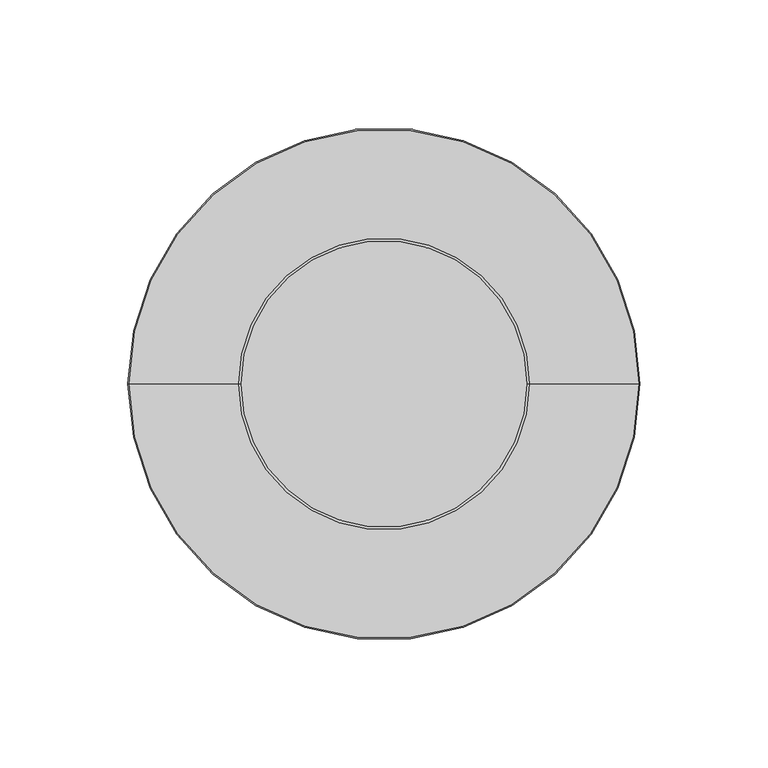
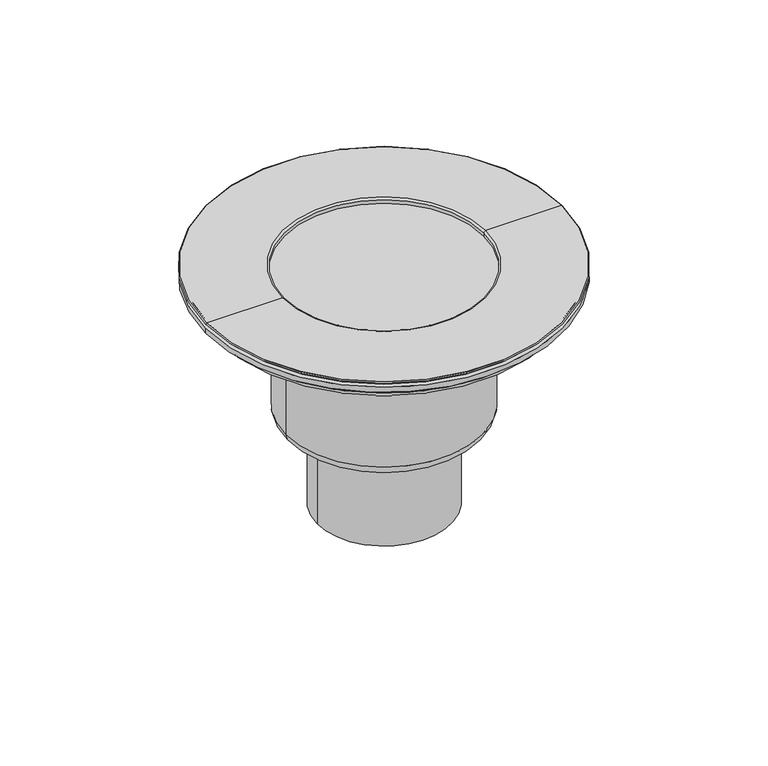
"""IFC4 building model written with IfcOpenShell, lengths in millimetres: flow terminal geometry."""

import ifcopenshell
import ifcopenshell.guid

model = None  # the IFC model being written
_history = None  # IfcOwnerHistory: only IFC2X3 demands one
_inside = {}  # id of a spatial element -> (the spatial element, [elements in it])
_under = {}  # id of a project, library or spatial element -> (it, [spatial elements below it])
_declared = {}  # id of a project -> (the project, [libraries it declares])
_typed = {}  # id of a type object -> (the type object, [elements of that type])
_made_of = {}  # id of a material, layer set ... -> (it, [elements and type objects made of it])


def new_model(schema):
    """Start an empty IFC model of exactly this schema.

    Asked for "IFC4X3", IfcOpenShell would pick the latest addendum, in which some entities
    have other attributes; the version numbers below select the first issue.
    IFC2X3 requires an IfcOwnerHistory on every rooted entity: one is made here for all.
    """
    global model, _history
    if schema == "IFC4X3":
        model = ifcopenshell.file(schema_version=(4, 3, 0, 0))
    else:
        model = ifcopenshell.file(schema=schema)
    _inside.clear()
    _under.clear()
    _declared.clear()
    _typed.clear()
    _made_of.clear()
    _history = None
    if model.schema == "IFC2X3":
        org = make("IfcOrganization", Name="unknown")
        user = make(
            "IfcPersonAndOrganization",
            ThePerson=make("IfcPerson", FamilyName="unknown"),
            TheOrganization=org,
        )
        app = make(
            "IfcApplication",
            ApplicationDeveloper=org,
            Version="unknown",
            ApplicationFullName="unknown",
            ApplicationIdentifier="unknown",
        )
        _history = make(
            "IfcOwnerHistory",
            OwningUser=user,
            OwningApplication=app,
            ChangeAction="ADDED",
            CreationDate=0,
        )
    return model


def make(cls, **values):
    """One entity of the class cls with the attributes given. An attribute that is None is left unset."""
    return model.create_entity(
        cls, **{name: value for name, value in values.items() if value is not None}
    )


def rooted(cls, **values):
    """An entity with a GlobalId (a new one), such as an element, a storey or a relation."""
    return make(cls, GlobalId=ifcopenshell.guid.new(), OwnerHistory=_history, **values)


def si_unit(unit_type, name, prefix=None):
    """IfcSIUnit, for example si_unit("LENGTHUNIT", "METRE", prefix="MILLI")."""
    return make("IfcSIUnit", UnitType=unit_type, Prefix=prefix, Name=name)


def assignment(units):
    """IfcUnitAssignment: the units of a project."""
    return None if units is None else make("IfcUnitAssignment", Units=units)


def point(xyz):
    """IfcCartesianPoint."""
    return None if xyz is None else make("IfcCartesianPoint", Coordinates=xyz)


def direction(xyz):
    """IfcDirection."""
    return None if xyz is None else make("IfcDirection", DirectionRatios=xyz)


def frame(location, z_axis=None, x_axis=None):
    """IfcAxis2Placement3D, a coordinate frame: its origin and axes. An axis left out is left unset."""
    return make(
        "IfcAxis2Placement3D",
        Location=point(location),
        Axis=direction(z_axis),
        RefDirection=direction(x_axis),
    )


def frame_2d(location, x_axis=None):
    """IfcAxis2Placement2D, a coordinate frame in the plane: its origin and x axis."""
    return make(
        "IfcAxis2Placement2D", Location=point(location), RefDirection=direction(x_axis)
    )


def origin():
    """The frame at (0, 0, 0) with its axes left unset."""
    return frame((0.0, 0.0, 0.0))


def origin_2d():
    """The frame at (0, 0) in the plane with its x axis left unset."""
    return frame_2d((0.0, 0.0))


def place(relative_to, where):
    """IfcLocalPlacement: puts the frame where relative to a parent placement (None: the world)."""
    return make(
        "IfcLocalPlacement", PlacementRelTo=relative_to, RelativePlacement=where
    )


def context(
    kind, dimensions, precision=None, world=None, true_north=None, identifier=None
):
    """IfcGeometricRepresentationContext, for example the 3D "Model" context."""
    return make(
        "IfcGeometricRepresentationContext",
        ContextIdentifier=identifier,
        ContextType=kind,
        CoordinateSpaceDimension=dimensions,
        Precision=precision,
        WorldCoordinateSystem=world,
        TrueNorth=true_north,
    )


def project(units=None, contexts=None):
    """IfcProject with its units and contexts."""
    return rooted(
        "IfcProject",
        Name="project",
        RepresentationContexts=contexts,
        UnitsInContext=assignment(units),
    )


def spatial(cls, under=None, at=None, **own):
    """A site, building, storey or space (cls), placed at a placement, below another one or the project."""
    s = rooted(cls, ObjectPlacement=at, **own)
    if under is not None:
        _under.setdefault(under.id(), (under, []))[1].append(s)
    return s


def polyline(points):
    """IfcPolyline through the points."""
    return make("IfcPolyline", Points=[point(p) for p in points])


def circle_curve(where, radius):
    """IfcCircle in the frame where."""
    return make("IfcCircle", Position=where, Radius=radius)


def ellipse_curve(where, semi_axis1, semi_axis2):
    """IfcEllipse in the frame where."""
    return make(
        "IfcEllipse", Position=where, SemiAxis1=semi_axis1, SemiAxis2=semi_axis2
    )


def trimmed(basis, trim1, trim2, sense, master):
    """IfcTrimmedCurve: the piece of a basis curve between two trims."""
    return make(
        "IfcTrimmedCurve",
        BasisCurve=basis,
        Trim1=trim1,
        Trim2=trim2,
        SenseAgreement=sense,
        MasterRepresentation=master,
    )


def segment(curve, same_sense, transition):
    """IfcCompositeCurveSegment."""
    return make(
        "IfcCompositeCurveSegment",
        Transition=transition,
        SameSense=same_sense,
        ParentCurve=curve,
    )


def composite_curve(segments, self_intersect=None):
    """IfcCompositeCurve: segments joined end to end."""
    return make("IfcCompositeCurve", Segments=segments, SelfIntersect=self_intersect)


def outline(outer, holes=None, kind="AREA"):
    """IfcArbitraryClosedProfileDef: a profile drawn as a closed curve; with holes, ...WithVoids."""
    if holes is None:
        return make("IfcArbitraryClosedProfileDef", ProfileType=kind, OuterCurve=outer)
    return make(
        "IfcArbitraryProfileDefWithVoids",
        ProfileType=kind,
        OuterCurve=outer,
        InnerCurves=holes,
    )


def extrude(swept, where, along, depth):
    """IfcExtrudedAreaSolid: the profile swept, set in the frame where, extruded along a direction by depth."""
    return make(
        "IfcExtrudedAreaSolid",
        SweptArea=swept,
        Position=where,
        ExtrudedDirection=direction(along),
        Depth=depth,
    )


def shape(context_of_items, identifier, shape_type, items):
    """IfcShapeRepresentation: the items that make up one representation, for example the "Body"."""
    return make(
        "IfcShapeRepresentation",
        ContextOfItems=context_of_items,
        RepresentationIdentifier=identifier,
        RepresentationType=shape_type,
        Items=items,
    )


def source(mapping_origin, context_of_items, identifier, shape_type, items):
    """IfcRepresentationMap: a shape defined once, which mapped items show again and again."""
    return make(
        "IfcRepresentationMap",
        MappingOrigin=mapping_origin,
        MappedRepresentation=shape(context_of_items, identifier, shape_type, items),
    )


def transform(
    local_origin,
    x_axis=None,
    y_axis=None,
    z_axis=None,
    scale=None,
    scale2=None,
    scale3=None,
    uniform=True,
):
    """IfcCartesianTransformationOperator3D, or its non-uniform kind. x_axis, y_axis, z_axis: its Axis1, 2, 3."""
    if uniform:
        return make(
            "IfcCartesianTransformationOperator3D",
            Axis1=direction(x_axis),
            Axis2=direction(y_axis),
            LocalOrigin=point(local_origin),
            Scale=scale,
            Axis3=direction(z_axis),
        )
    return make(
        "IfcCartesianTransformationOperator3DnonUniform",
        Axis1=direction(x_axis),
        Axis2=direction(y_axis),
        LocalOrigin=point(local_origin),
        Scale=scale,
        Axis3=direction(z_axis),
        Scale2=scale2,
        Scale3=scale3,
    )


def mapped(mapping_source, mapping_target):
    """IfcMappedItem: shows the shape of a source again, moved by a transform."""
    return make(
        "IfcMappedItem", MappingSource=mapping_source, MappingTarget=mapping_target
    )


def made_of(thing, what):
    """Note that an element or type object is made of a material, layer set ...; save() writes the relation."""
    if what is not None:
        _made_of.setdefault(what.id(), (what, []))[1].append(thing)
    return thing


def element(
    cls,
    number,
    at=None,
    inside=None,
    cuts=None,
    type_object=None,
    material=None,
    context=None,
    identifier="Body",
    shape_type=None,
    held_by="IfcProductDefinitionShape",
    body=None,
    shapes=None,
    **own,
):
    """One element of the class cls, such as IfcWall. Its Tag is "e" and its number.

    at: its placement. inside: the storey or other place that contains it. cuts: it is an
    opening in that element (IfcRelVoidsElement). A single representation is given by context,
    identifier, shape_type and body (its items); several are given by shapes. held_by: the class
    of the entity that holds the representations. save() writes the other relations.
    """
    e = rooted(cls, Tag="e%d" % number, ObjectPlacement=at, **own)
    if body is not None:
        shapes = [shape(context, identifier, shape_type, body)]
    if shapes is not None:
        e.Representation = make(held_by, Representations=shapes)
    if inside is not None:
        _inside.setdefault(inside.id(), (inside, []))[1].append(e)
    if cuts is not None:
        rooted(
            "IfcRelVoidsElement", RelatingBuildingElement=cuts, RelatedOpeningElement=e
        )
    if type_object is not None:
        _typed.setdefault(type_object.id(), (type_object, []))[1].append(e)
    return made_of(e, material)


def aggregate(whole, parts):
    """IfcRelAggregates: a whole, such as a stair, and the parts it consists of."""
    return rooted("IfcRelAggregates", RelatingObject=whole, RelatedObjects=parts)


def save(model, path):
    """Write the relations noted so far, then the file.

    IfcRelAggregates (storeys below a building ...), IfcRelContainedInSpatialStructure (elements
    in a storey), IfcRelDefinesByType, IfcRelAssociatesMaterial and IfcRelDeclares: one each for
    every whole, place, type object, material and project.
    """
    for whole, parts in _under.values():
        aggregate(whole, parts)
    for where, things in _inside.values():
        rooted(
            "IfcRelContainedInSpatialStructure",
            RelatedElements=things,
            RelatingStructure=where,
        )
    for kind, things in _typed.values():
        rooted("IfcRelDefinesByType", RelatedObjects=things, RelatingType=kind)
    for what, things in _made_of.values():
        rooted("IfcRelAssociatesMaterial", RelatedObjects=things, RelatingMaterial=what)
    for by, libraries in _declared.values():
        rooted("IfcRelDeclares", RelatingContext=by, RelatedDefinitions=libraries)
    model.write(path)


def plane_surface(at):
    """IfcPlane: the flat surface through the origin of the frame at, square to its z axis."""
    return make("IfcPlane", Position=at)


def cylinder_surface(at, radius):
    """IfcCylindricalSurface: all points at the distance radius from the z axis of the frame at."""
    return make("IfcCylindricalSurface", Position=at, Radius=radius)


def revolved_surface(curve, axis_point, axis_direction):
    """IfcSurfaceOfRevolution: the curve turned about the line through axis_point along axis_direction."""
    return make(
        "IfcSurfaceOfRevolution",
        SweptCurve=make("IfcArbitraryOpenProfileDef", ProfileType="CURVE", Curve=curve),
        AxisPosition=make("IfcAxis1Placement", Location=point(axis_point), Axis=direction(axis_direction)),
    )


def advanced_brep(points, edges, surfaces, faces):
    """IfcAdvancedBrep: a solid bounded by faces that lie on surfaces and meet in shared edges.

    An edge is (start, end): straight between two places in points (the first is 0);
    or (start, end, curve); or (start, end, curve, False) where it runs against its curve.
    A face is (place in surfaces, loops), or (place, loops, False) where it looks against
    its surface's normal. A loop lists edges by number (the first is 1), with a minus sign
    where the edge is run from its end to its start. The first loop is the outer one.
    """
    corners = [point(p) for p in points]
    vertices = [make("IfcVertexPoint", VertexGeometry=c) for c in corners]
    made = []
    for start, end, *more in edges:
        made.append(
            make(
                "IfcEdgeCurve",
                EdgeStart=vertices[start],
                EdgeEnd=vertices[end],
                EdgeGeometry=more[0] if more else make("IfcPolyline", Points=[corners[start], corners[end]]),
                SameSense=more[1] if len(more) > 1 else True,
            )
        )
    hull = []
    for where, loops, *sense in faces:
        bounds = []
        for j, loop in enumerate(loops):
            ring = [make("IfcOrientedEdge", EdgeElement=made[abs(k) - 1], Orientation=k > 0) for k in loop]
            bounds.append(
                make(
                    "IfcFaceOuterBound" if j == 0 else "IfcFaceBound",
                    Bound=make("IfcEdgeLoop", EdgeList=ring),
                    Orientation=True,
                )
            )
        hull.append(make("IfcAdvancedFace", Bounds=bounds, FaceSurface=surfaces[where], SameSense=sense[0] if sense else True))
    return make("IfcAdvancedBrep", Outer=make("IfcClosedShell", CfsFaces=hull))


def flow_terminal_6b02ad8c(model_context):
    return source(origin(), model_context, "Body", "SolidModel", [
        advanced_brep(
        [(-57.0, 0.0, -64.0), (57.0, 0.0, -64.0), (99.5, 0.0, -64.0), (-99.5, 0.0, -64.0), (-56.0, 0.0, -65.0), (56.0, 0.0, -65.0), (-56.0, 0.0, -67.0), (56.0, 0.0, -67.0), (-97.5, 0.0, -67.0), (97.5, 0.0, -67.0), (-99.5, 0.0, -65.0), (99.5, 0.0, -65.0)],
        [
            (0, 1, circle_curve(frame((0.0, 0.0, -64.0), z_axis=(0.0, 0.0, -1.0), x_axis=(1.0, 0.0, 0.0)), 57.0)),
            (1, 2),
            (2, 3, circle_curve(frame((0.0, 0.0, -64.0), z_axis=(0.0, 0.0, 1.0), x_axis=(1.0, 0.0, 0.0)), 99.5)),
            (3, 0),
            (1, 0, circle_curve(frame((0.0, 0.0, -64.0), z_axis=(0.0, 0.0, -1.0), x_axis=(1.0, 0.0, 0.0)), 57.0)),
            (3, 2, circle_curve(frame((0.0, 0.0, -64.0), z_axis=(0.0, 0.0, 1.0), x_axis=(1.0, 0.0, 0.0)), 99.5)),
            (4, 5, circle_curve(frame((0.0, 0.0, -65.0), z_axis=(0.0, 0.0, -1.0), x_axis=(1.0, 0.0, 0.0)), 56.0)),
            (5, 1, circle_curve(frame((57.0, 0.0, -65.0), z_axis=(0.0, 1.0, 0.0), x_axis=(1.0, 0.0, 0.0)), 1.0)),
            (0, 4, circle_curve(frame((-57.0, 0.0, -65.0), z_axis=(0.0, 1.0, 0.0), x_axis=(-1.0, 0.0, 0.0)), 1.0)),
            (5, 4, circle_curve(frame((0.0, 0.0, -65.0), z_axis=(0.0, 0.0, -1.0), x_axis=(1.0, 0.0, 0.0)), 56.0)),
            (6, 7, circle_curve(frame((0.0, 0.0, -67.0), z_axis=(0.0, 0.0, -1.0), x_axis=(1.0, 0.0, 0.0)), 56.0)),
            (7, 5),
            (4, 6),
            (7, 6, circle_curve(frame((0.0, 0.0, -67.0), z_axis=(0.0, 0.0, -1.0), x_axis=(1.0, 0.0, 0.0)), 56.0)),
            (8, 9, circle_curve(frame((0.0, 0.0, -67.0), z_axis=(0.0, 0.0, -1.0), x_axis=(1.0, 0.0, 0.0)), 97.5)),
            (9, 7),
            (6, 8),
            (9, 8, circle_curve(frame((0.0, 0.0, -67.0), z_axis=(0.0, 0.0, -1.0), x_axis=(1.0, 0.0, 0.0)), 97.5)),
            (10, 11, circle_curve(frame((0.0, 0.0, -65.0), z_axis=(0.0, 0.0, -1.0), x_axis=(1.0, 0.0, 0.0)), 99.5)),
            (11, 9, circle_curve(frame((99.5, 0.0, -67.0), z_axis=(0.0, -1.0, 0.0), x_axis=(1.0, 0.0, 0.0)), 2.0)),
            (8, 10, circle_curve(frame((-99.5, 0.0, -67.0), z_axis=(0.0, -1.0, 0.0), x_axis=(-1.0, 0.0, 0.0)), 2.0)),
            (11, 10, circle_curve(frame((0.0, 0.0, -65.0), z_axis=(0.0, 0.0, -1.0), x_axis=(1.0, 0.0, 0.0)), 99.5)),
            (2, 11, circle_curve(frame((99.5, 0.0, -64.5), z_axis=(0.0, 1.0, 0.0), x_axis=(1.0, 0.0, 0.0)), 0.5)),
            (10, 3, circle_curve(frame((-99.5, 0.0, -64.5), z_axis=(0.0, 1.0, 0.0), x_axis=(-1.0, 0.0, 0.0)), 0.5)),
        ],
        [
            plane_surface(frame((0.0, 0.0, -64.0), z_axis=(0.0, 0.0, 1.0), x_axis=(1.0, 0.0, 0.0))),
            revolved_surface(trimmed(ellipse_curve(frame((57.0, 0.0, -65.0), z_axis=(0.0, -1.0, 0.0), x_axis=(1.0, 0.0, 0.0)), 1.0, 1.0), [point((57.0, 0.0, -64.0))], [point((56.0, 0.0, -65.0))], True, "CARTESIAN"), (0.0, 0.0, 2144.3150031), (0.0, 0.0, 1.0)),
            revolved_surface(polyline([(56.0, 0.0, -65.0), (56.0, 0.0, -67.0)]), (0.0, 0.0, 2144.3150031), (0.0, 0.0, 1.0)),
            plane_surface(frame((0.0, 0.0, -67.0), z_axis=(0.0, 0.0, -1.0), x_axis=(1.0, 0.0, 0.0))),
            revolved_surface(trimmed(ellipse_curve(frame((99.5, 0.0, -67.0), z_axis=(0.0, 1.0, 0.0), x_axis=(1.0, 0.0, 0.0)), 2.0, 2.0), [point((97.5, 0.0, -67.0))], [point((99.5, 0.0, -65.0))], True, "CARTESIAN"), (0.0, 0.0, 2144.3150031), (0.0, 0.0, 1.0)),
            revolved_surface(trimmed(ellipse_curve(frame((99.5, 0.0, -64.5), z_axis=(0.0, -1.0, 0.0), x_axis=(1.0, 0.0, 0.0)), 0.5, 0.5), [point((99.5, 0.0, -65.0))], [point((99.5, 0.0, -64.0))], True, "CARTESIAN"), (0.0, 0.0, 2144.3150031), (0.0, 0.0, 1.0)),
        ],
        [
            (0, [[1, 2, 3, 4]]),
            (0, [[5, -4, 6, -2]]),
            (1, [[7, 8, -1, 9]]),
            (1, [[10, -9, -5, -8]]),
            (2, [[11, 12, -7, 13]]),
            (2, [[14, -13, -10, -12]]),
            (3, [[15, 16, -11, 17]]),
            (3, [[18, -17, -14, -16]]),
            (4, [[19, 20, -15, 21]]),
            (4, [[22, -21, -18, -20]]),
            (5, [[-3, 23, -19, 24]]),
            (5, [[-6, -24, -22, -23]]),
        ],
    ),
        extrude(outline(composite_curve([segment(trimmed(circle_curve(origin_2d(), 100.0), [point((-100.0, 0.0))], [point((100.0, 0.0))], False, "CARTESIAN"), True, "CONTINUOUS"), segment(trimmed(circle_curve(origin_2d(), 100.0), [point((100.0, 0.0))], [point((-100.0, 0.0))], False, "CARTESIAN"), True, "CONTINUOUS")], self_intersect=False)), frame((0.0, 0.0, -70.0), z_axis=(0.0, 0.0, 1.0), x_axis=(1.0, 0.0, 0.0)), (0.0, 0.0, 1.0), 3.0),
        advanced_brep(
        [(-55.0, 0.0, -146.0), (55.0, 0.0, -146.0), (49.0, 0.0, -152.0), (-49.0, 0.0, -152.0), (-55.0, 0.0, -94.0), (55.0, 0.0, -94.0), (-58.0, 0.0, -94.0), (58.0, 0.0, -94.0), (-95.0, 0.0, -70.0), (95.0, 0.0, -70.0), (95.0, 0.0, -74.0), (-95.0, 0.0, -74.0), (0.0, 0.0, -70.0), (0.0, 0.0, -152.0), (-58.0, 0.0, -77.0), (58.0, 0.0, -77.0), (-92.0, 0.0, -77.0), (92.0, 0.0, -77.0)],
        [
            (0, 1, circle_curve(frame((0.0, 0.0, -146.0), z_axis=(0.0, 0.0, -1.0), x_axis=(1.0, 0.0, 0.0)), 55.0)),
            (1, 2, circle_curve(frame((49.0, 0.0, -146.0), z_axis=(0.0, 1.0, 0.0), x_axis=(1.0, 0.0, 0.0)), 6.0)),
            (2, 3, circle_curve(frame((0.0, 0.0, -152.0), z_axis=(0.0, 0.0, 1.0), x_axis=(1.0, 0.0, 0.0)), 49.0)),
            (3, 0, circle_curve(frame((-49.0, 0.0, -146.0), z_axis=(0.0, 1.0, 0.0), x_axis=(-1.0, 0.0, 0.0)), 6.0)),
            (1, 0, circle_curve(frame((0.0, 0.0, -146.0), z_axis=(0.0, 0.0, -1.0), x_axis=(1.0, 0.0, 0.0)), 55.0)),
            (3, 2, circle_curve(frame((0.0, 0.0, -152.0), z_axis=(0.0, 0.0, 1.0), x_axis=(1.0, 0.0, 0.0)), 49.0)),
            (4, 5, circle_curve(frame((0.0, 0.0, -94.0), z_axis=(0.0, 0.0, -1.0), x_axis=(1.0, 0.0, 0.0)), 55.0)),
            (5, 1),
            (0, 4),
            (5, 4, circle_curve(frame((0.0, 0.0, -94.0), z_axis=(0.0, 0.0, -1.0), x_axis=(1.0, 0.0, 0.0)), 55.0)),
            (6, 7, circle_curve(frame((0.0, 0.0, -94.0), z_axis=(0.0, 0.0, -1.0), x_axis=(1.0, 0.0, 0.0)), 58.0)),
            (7, 5),
            (4, 6),
            (7, 6, circle_curve(frame((0.0, 0.0, -94.0), z_axis=(0.0, 0.0, -1.0), x_axis=(1.0, 0.0, 0.0)), 58.0)),
            (8, 9, circle_curve(frame((0.0, 0.0, -70.0), z_axis=(0.0, 0.0, -1.0), x_axis=(1.0, 0.0, 0.0)), 95.0)),
            (9, 10),
            (10, 11, circle_curve(frame((0.0, 0.0, -74.0), z_axis=(0.0, 0.0, 1.0), x_axis=(1.0, 0.0, 0.0)), 95.0)),
            (11, 8),
            (9, 8, circle_curve(frame((0.0, 0.0, -70.0), z_axis=(0.0, 0.0, -1.0), x_axis=(1.0, 0.0, 0.0)), 95.0)),
            (11, 10, circle_curve(frame((0.0, 0.0, -74.0), z_axis=(0.0, 0.0, 1.0), x_axis=(1.0, 0.0, 0.0)), 95.0)),
            (12, 9),
            (8, 12),
            (2, 13),
            (13, 3),
            (14, 15, circle_curve(frame((0.0, 0.0, -77.0), z_axis=(0.0, 0.0, -1.0), x_axis=(1.0, 0.0, 0.0)), 58.0)),
            (15, 7),
            (6, 14),
            (15, 14, circle_curve(frame((0.0, 0.0, -77.0), z_axis=(0.0, 0.0, -1.0), x_axis=(1.0, 0.0, 0.0)), 58.0)),
            (16, 17, circle_curve(frame((0.0, 0.0, -77.0), z_axis=(0.0, 0.0, -1.0), x_axis=(1.0, 0.0, 0.0)), 92.0)),
            (17, 15),
            (14, 16),
            (17, 16, circle_curve(frame((0.0, 0.0, -77.0), z_axis=(0.0, 0.0, -1.0), x_axis=(1.0, 0.0, 0.0)), 92.0)),
            (10, 17, circle_curve(frame((92.0, 0.0, -74.0), z_axis=(0.0, 1.0, 0.0), x_axis=(1.0, 0.0, 0.0)), 3.0)),
            (16, 11, circle_curve(frame((-92.0, 0.0, -74.0), z_axis=(0.0, 1.0, 0.0), x_axis=(-1.0, 0.0, 0.0)), 3.0)),
        ],
        [
            revolved_surface(trimmed(ellipse_curve(frame((49.0, 0.0, -146.0), z_axis=(0.0, -1.0, 0.0), x_axis=(1.0, 0.0, 0.0)), 6.0, 6.0), [point((49.0, 0.0, -152.0))], [point((55.0, 0.0, -146.0))], True, "CARTESIAN"), (0.0, 0.0, 2144.3150031), (0.0, 0.0, 1.0)),
            cylinder_surface(frame((0.0, 0.0, 2144.3150031), z_axis=(0.0, 0.0, 1.0), x_axis=(1.0, 0.0, 0.0)), 55.0),
            plane_surface(frame((0.0, 0.0, -94.0), z_axis=(0.0, 0.0, -1.0), x_axis=(1.0, 0.0, 0.0))),
            cylinder_surface(frame((0.0, 0.0, 2144.3150031), z_axis=(0.0, 0.0, 1.0), x_axis=(1.0, 0.0, 0.0)), 95.0),
            plane_surface(frame((0.0, 0.0, -70.0), z_axis=(0.0, 0.0, 1.0), x_axis=(1.0, 0.0, 0.0))),
            plane_surface(frame((0.0, 0.0, -152.0), z_axis=(0.0, 0.0, -1.0), x_axis=(1.0, 0.0, 0.0))),
            cylinder_surface(frame((0.0, 0.0, 2144.3150031), z_axis=(0.0, 0.0, 1.0), x_axis=(1.0, 0.0, 0.0)), 58.0),
            plane_surface(frame((0.0, 0.0, -77.0), z_axis=(0.0, 0.0, -1.0), x_axis=(1.0, 0.0, 0.0))),
            revolved_surface(trimmed(ellipse_curve(frame((92.0, 0.0, -74.0), z_axis=(0.0, -1.0, 0.0), x_axis=(1.0, 0.0, 0.0)), 3.0, 3.0), [point((92.0, 0.0, -77.0))], [point((95.0, 0.0, -74.0))], True, "CARTESIAN"), (0.0, 0.0, 2144.3150031), (0.0, 0.0, 1.0)),
        ],
        [
            (0, [[1, 2, 3, 4]]),
            (0, [[5, -4, 6, -2]]),
            (1, [[7, 8, -1, 9]]),
            (1, [[10, -9, -5, -8]]),
            (2, [[11, 12, -7, 13]]),
            (2, [[14, -13, -10, -12]]),
            (3, [[15, 16, 17, 18]]),
            (3, [[19, -18, 20, -16]]),
            (4, [[21, -15, 22]]),
            (4, [[-22, -19, -21]]),
            (5, [[-3, 23, 24]]),
            (5, [[-6, -24, -23]]),
            (6, [[25, 26, -11, 27]]),
            (6, [[28, -27, -14, -26]]),
            (7, [[29, 30, -25, 31]]),
            (7, [[32, -31, -28, -30]]),
            (8, [[-17, 33, -29, 34]]),
            (8, [[-20, -34, -32, -33]]),
        ],
    ),
        extrude(outline(composite_curve([segment(trimmed(circle_curve(origin_2d(), 25.0), [point((25.0, 0.0))], [point((-25.0, 0.0))], False, "CARTESIAN"), True, "CONTINUOUS"), segment(trimmed(circle_curve(origin_2d(), 25.0), [point((-25.0, 0.0))], [point((25.0, 0.0))], False, "CARTESIAN"), True, "CONTINUOUS")], self_intersect=False), holes=[composite_curve([segment(trimmed(circle_curve(origin_2d(), 22.0), [point((22.0, 0.0))], [point((-22.0, 0.0))], True, "CARTESIAN"), True, "CONTINUOUS"), segment(trimmed(circle_curve(origin_2d(), 22.0), [point((-22.0, 0.0))], [point((22.0, 0.0))], True, "CARTESIAN"), True, "CONTINUOUS")], self_intersect=False)]), frame((0.0, 0.0, -205.0), z_axis=(0.0, 0.0, 1.0), x_axis=(1.0, 0.0, 0.0)), (0.0, 0.0, 1.0), 53.0),
        extrude(outline(composite_curve([segment(trimmed(circle_curve(origin_2d(), 37.5), [point((37.5, 0.0))], [point((-37.5, 0.0))], False, "CARTESIAN"), True, "CONTINUOUS"), segment(trimmed(circle_curve(origin_2d(), 37.5), [point((-37.5, 0.0))], [point((37.5, 0.0))], False, "CARTESIAN"), True, "CONTINUOUS")], self_intersect=False), holes=[composite_curve([segment(trimmed(circle_curve(origin_2d(), 34.5), [point((34.5, 0.0))], [point((-34.5, 0.0))], True, "CARTESIAN"), True, "CONTINUOUS"), segment(trimmed(circle_curve(origin_2d(), 34.5), [point((-34.5, 0.0))], [point((34.5, 0.0))], True, "CARTESIAN"), True, "CONTINUOUS")], self_intersect=False)]), frame((0.0, 0.0, -205.0), z_axis=(0.0, 0.0, 1.0), x_axis=(1.0, 0.0, 0.0)), (0.0, 0.0, 1.0), 53.0),
    ])


if __name__ == "__main__":
    model = new_model("IFC4")
    model_context = context("Model", 3, world=origin())
    ifc_project = project(units=[si_unit("LENGTHUNIT", "METRE", prefix="MILLI")], contexts=[model_context])
    site = spatial("IfcSite", under=ifc_project)
    building = spatial("IfcBuilding", under=site)
    placement = place(None, origin())
    flow_terminal_shape = flow_terminal_6b02ad8c(model_context)
    element("IfcFlowTerminal", 1, at=placement, inside=building, context=model_context, shape_type="MappedRepresentation", body=[
        mapped(flow_terminal_shape, transform((0.0, 0.0, 0.0), x_axis=(1.0, 0.0, 0.0), y_axis=(0.0, 1.0, 0.0), z_axis=(0.0, 0.0, 1.0))),
    ])
    save(model, "model.ifc")
